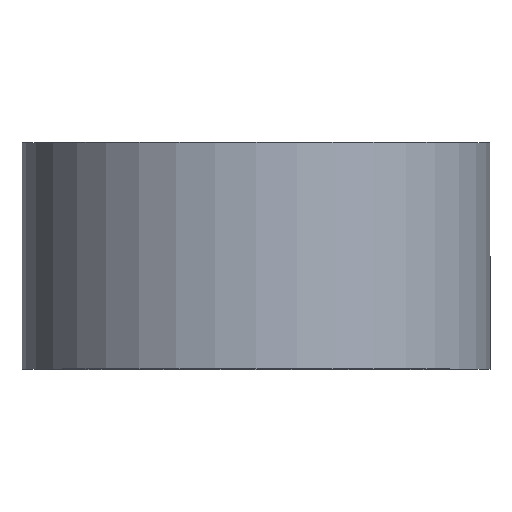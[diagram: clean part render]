
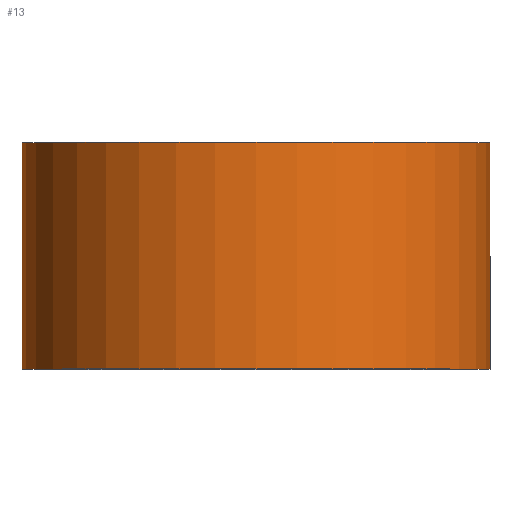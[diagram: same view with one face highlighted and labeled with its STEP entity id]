
A CAD part, top view. The second image highlights one B-rep face of the part: STEP entity #13.
In plain terms, the highlighted cylindrical face has radius 31 mm (diameter 62 mm), a partial arc.
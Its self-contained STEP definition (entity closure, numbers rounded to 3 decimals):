
#4 = LINE ( 'NONE', #197, #186 ) ;
#13 = ADVANCED_FACE ( 'NONE', ( #254 ), #211, .T. ) ;
#18 = CARTESIAN_POINT ( 'NONE',  ( 31., 30., 0. ) ) ;
#24 = ORIENTED_EDGE ( 'NONE', *, *, #280, .T. ) ;
#36 = ORIENTED_EDGE ( 'NONE', *, *, #51, .F. ) ;
#51 = EDGE_CURVE ( 'NONE', #136, #285, #86, .T. ) ;
#86 = CIRCLE ( 'NONE', #124, 31. ) ;
#88 = ORIENTED_EDGE ( 'NONE', *, *, #99, .F. ) ;
#92 = DIRECTION ( 'NONE',  ( 0., 1., 0. ) ) ;
#94 = CARTESIAN_POINT ( 'NONE',  ( 0., 0., 0. ) ) ;
#99 = EDGE_CURVE ( 'NONE', #274, #136, #173, .T. ) ;
#100 = CARTESIAN_POINT ( 'NONE',  ( -31., 30., 0. ) ) ;
#114 = DIRECTION ( 'NONE',  ( -1., 0., 0. ) ) ;
#120 = CARTESIAN_POINT ( 'NONE',  ( 0., 30., 0. ) ) ;
#124 = AXIS2_PLACEMENT_3D ( 'NONE', #120, #145, #276 ) ;
#128 = DIRECTION ( 'NONE',  ( 0., 1., 0. ) ) ;
#132 = DIRECTION ( 'NONE',  ( -1., 0., 0. ) ) ;
#136 = VERTEX_POINT ( 'NONE', #100 ) ;
#145 = DIRECTION ( 'NONE',  ( 0., 1., 0. ) ) ;
#154 = CARTESIAN_POINT ( 'NONE',  ( 0., 0., 0. ) ) ;
#170 = CARTESIAN_POINT ( 'NONE',  ( -31., 0., 0. ) ) ;
#173 = LINE ( 'NONE', #170, #235 ) ;
#175 = DIRECTION ( 'NONE',  ( 0., 1., 0. ) ) ;
#180 = AXIS2_PLACEMENT_3D ( 'NONE', #154, #128, #132 ) ;
#186 = VECTOR ( 'NONE', #175, 1000. ) ;
#194 = DIRECTION ( 'NONE',  ( 0., 1., 0. ) ) ;
#197 = CARTESIAN_POINT ( 'NONE',  ( 31., 0., 0. ) ) ;
#198 = EDGE_CURVE ( 'NONE', #298, #285, #4, .T. ) ;
#210 = CARTESIAN_POINT ( 'NONE',  ( -31., 0., 0. ) ) ;
#211 = CYLINDRICAL_SURFACE ( 'NONE', #262, 31. ) ;
#235 = VECTOR ( 'NONE', #194, 1000. ) ;
#243 = CIRCLE ( 'NONE', #180, 31. ) ;
#246 = CARTESIAN_POINT ( 'NONE',  ( 31., 0., 0. ) ) ;
#254 = FACE_OUTER_BOUND ( 'NONE', #278, .T. ) ;
#262 = AXIS2_PLACEMENT_3D ( 'NONE', #94, #92, #114 ) ;
#273 = ORIENTED_EDGE ( 'NONE', *, *, #198, .T. ) ;
#274 = VERTEX_POINT ( 'NONE', #210 ) ;
#276 = DIRECTION ( 'NONE',  ( -1., 0., 0. ) ) ;
#278 = EDGE_LOOP ( 'NONE', ( #24, #273, #36, #88 ) ) ;
#280 = EDGE_CURVE ( 'NONE', #274, #298, #243, .T. ) ;
#285 = VERTEX_POINT ( 'NONE', #18 ) ;
#298 = VERTEX_POINT ( 'NONE', #246 ) ;
